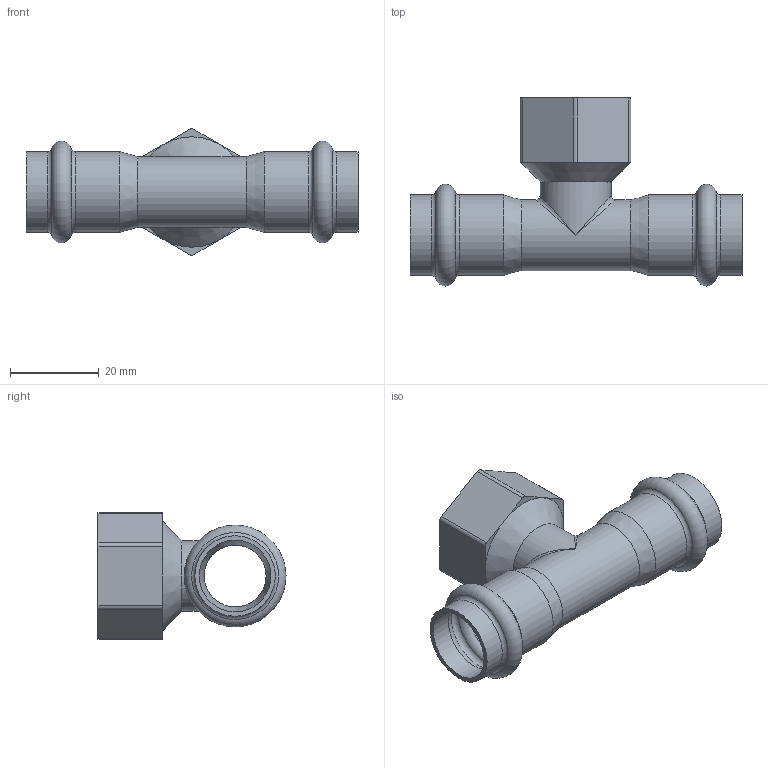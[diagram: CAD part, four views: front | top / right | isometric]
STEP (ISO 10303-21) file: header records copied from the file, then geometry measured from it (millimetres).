
FILE_DESCRIPTION(/* description */ (''),/* implementation_level */ '2;1');
FILE_NAME(/* name */ '51267000001.stp',/* time_stamp */ '2020-06-22T14:51:40+08:00',/* author */ (''),/* organization */ (''),/* preprocessor_version */ 'ST-DEVELOPER v11',/* originating_system */ 'SIEMENS PLM Software NX 7.5',/* authorisation */ '');
FILE_SCHEMA (('CONFIG_CONTROL_DESIGN'));
Length unit declared in the file: millimetre
Products named in the file (1): Admi4F60b487
Bounding box: 75 x 42.47 x 28.56 mm (x, y, z)
Volume: 8893.6 mm3; surface area: 11851 mm2
Topology: 1 solids, 1 shells, 52 faces, 120 edges, 66 vertices
Faces by surface type: cylinder 19, plane 12, torus 12, cone 7, bspline 2
Full cylindrical faces by diameter (mm): 14 x1, 14.4 x1, 16 x2, 16.2 x4, 18.2 x4, 18.6 x1
Entity records: 1462 total; most frequent: CARTESIAN_POINT 345, DIRECTION 232, ORIENTED_EDGE 160, AXIS2_PLACEMENT_3D 103, EDGE_LOOP 90, EDGE_CURVE 80, FACE_BOUND 74, VERTEX_POINT 64
